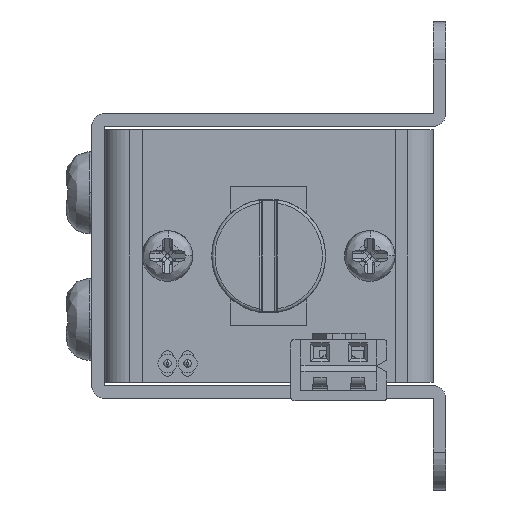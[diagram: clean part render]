
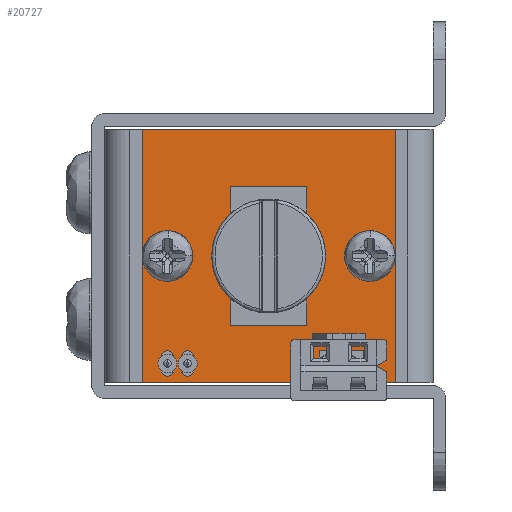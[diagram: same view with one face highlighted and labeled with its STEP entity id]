
A CAD part, left-side view. The second image highlights one B-rep face of the part: STEP entity #20727.
In plain terms, the highlighted planar face has unit normal (-1, 0, 0).
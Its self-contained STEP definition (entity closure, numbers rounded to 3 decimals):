
#20134=CARTESIAN_POINT('',(-27.5,8.,0.));
#20135=DIRECTION('',(1.,0.,0.));
#20136=DIRECTION('',(0.,0.,1.));
#20137=AXIS2_PLACEMENT_3D('',#20134,#20135,#20136);
#20139=CARTESIAN_POINT('',(-27.5,8.,0.));
#20140=DIRECTION('',(1.,0.,0.));
#20141=DIRECTION('',(0.,0.,-1.));
#20142=AXIS2_PLACEMENT_3D('',#20139,#20140,#20141);
#20144=CARTESIAN_POINT('',(-27.5,-8.,0.));
#20145=DIRECTION('',(1.,0.,0.));
#20146=DIRECTION('',(0.,0.,1.));
#20147=AXIS2_PLACEMENT_3D('',#20144,#20145,#20146);
#20149=CARTESIAN_POINT('',(-27.5,-8.,0.));
#20150=DIRECTION('',(1.,0.,0.));
#20151=DIRECTION('',(0.,0.,-1.));
#20152=AXIS2_PLACEMENT_3D('',#20149,#20150,#20151);
#20154=DIRECTION('',(0.,-1.,0.));
#20155=VECTOR('',#20154,14.);
#20156=CARTESIAN_POINT('',(-27.5,10.,-10.));
#20157=LINE('',#20156,#20155);
#20158=DIRECTION('',(0.,0.,-1.));
#20159=VECTOR('',#20158,20.);
#20160=CARTESIAN_POINT('',(-27.5,10.,10.));
#20161=LINE('',#20160,#20159);
#20162=DIRECTION('',(0.,1.,0.));
#20163=VECTOR('',#20162,20.);
#20164=CARTESIAN_POINT('',(-27.5,-10.,10.));
#20165=LINE('',#20164,#20163);
#20166=DIRECTION('',(0.,0.,1.));
#20167=VECTOR('',#20166,20.);
#20168=CARTESIAN_POINT('',(-27.5,-10.,-10.));
#20169=LINE('',#20168,#20167);
#20170=DIRECTION('',(0.,1.,0.));
#20171=VECTOR('',#20170,2.);
#20172=CARTESIAN_POINT('',(-27.5,-10.,-10.));
#20173=LINE('',#20172,#20171);
#20174=DIRECTION('',(0.,0.,1.));
#20175=VECTOR('',#20174,2.5);
#20176=CARTESIAN_POINT('',(-27.5,-8.,-10.));
#20177=LINE('',#20176,#20175);
#20178=DIRECTION('',(0.,1.,0.));
#20179=VECTOR('',#20178,4.);
#20180=CARTESIAN_POINT('',(-27.5,-8.,-7.5));
#20181=LINE('',#20180,#20179);
#20182=DIRECTION('',(0.,0.,-1.));
#20183=VECTOR('',#20182,2.5);
#20184=CARTESIAN_POINT('',(-27.5,-4.,-7.5));
#20185=LINE('',#20184,#20183);
#20186=DIRECTION('',(0.,-1.,0.));
#20187=VECTOR('',#20186,6.);
#20188=CARTESIAN_POINT('',(-27.5,3.,-5.5));
#20189=LINE('',#20188,#20187);
#20190=DIRECTION('',(0.,0.,1.));
#20191=VECTOR('',#20190,3.);
#20192=CARTESIAN_POINT('',(-27.5,-3.,-5.5));
#20193=LINE('',#20192,#20191);
#20194=DIRECTION('',(0.,1.,0.));
#20195=VECTOR('',#20194,3.);
#20196=CARTESIAN_POINT('',(-27.5,-3.,-2.5));
#20197=LINE('',#20196,#20195);
#20198=CARTESIAN_POINT('',(-27.5,0.,0.));
#20199=DIRECTION('',(-1.,0.,0.));
#20200=DIRECTION('',(0.,0.,-1.));
#20201=AXIS2_PLACEMENT_3D('',#20198,#20199,#20200);
#20203=DIRECTION('',(0.,-1.,0.));
#20204=VECTOR('',#20203,3.);
#20205=CARTESIAN_POINT('',(-27.5,0.,2.5));
#20206=LINE('',#20205,#20204);
#20207=DIRECTION('',(0.,0.,1.));
#20208=VECTOR('',#20207,3.);
#20209=CARTESIAN_POINT('',(-27.5,-3.,2.5));
#20210=LINE('',#20209,#20208);
#20211=DIRECTION('',(0.,1.,0.));
#20212=VECTOR('',#20211,6.);
#20213=CARTESIAN_POINT('',(-27.5,-3.,5.5));
#20214=LINE('',#20213,#20212);
#20215=DIRECTION('',(0.,0.,-1.));
#20216=VECTOR('',#20215,3.);
#20217=CARTESIAN_POINT('',(-27.5,3.,5.5));
#20218=LINE('',#20217,#20216);
#20219=DIRECTION('',(0.,-1.,0.));
#20220=VECTOR('',#20219,3.);
#20221=CARTESIAN_POINT('',(-27.5,3.,2.5));
#20222=LINE('',#20221,#20220);
#20223=CARTESIAN_POINT('',(-27.5,0.,0.));
#20224=DIRECTION('',(-1.,0.,0.));
#20225=DIRECTION('',(0.,0.,1.));
#20226=AXIS2_PLACEMENT_3D('',#20223,#20224,#20225);
#20228=DIRECTION('',(0.,1.,0.));
#20229=VECTOR('',#20228,3.);
#20230=CARTESIAN_POINT('',(-27.5,0.,-2.5));
#20231=LINE('',#20230,#20229);
#20232=DIRECTION('',(0.,0.,-1.));
#20233=VECTOR('',#20232,3.);
#20234=CARTESIAN_POINT('',(-27.5,3.,-2.5));
#20235=LINE('',#20234,#20233);
#20236=CARTESIAN_POINT('',(-27.5,8.,-9.));
#20237=DIRECTION('',(-1.,0.,0.));
#20238=DIRECTION('',(0.,1.,0.));
#20239=AXIS2_PLACEMENT_3D('',#20236,#20237,#20238);
#20241=DIRECTION('',(0.,0.,1.));
#20242=VECTOR('',#20241,1.);
#20243=CARTESIAN_POINT('',(-27.5,7.5,-9.));
#20244=LINE('',#20243,#20242);
#20245=CARTESIAN_POINT('',(-27.5,8.,-8.));
#20246=DIRECTION('',(-1.,0.,0.));
#20247=DIRECTION('',(0.,-1.,0.));
#20248=AXIS2_PLACEMENT_3D('',#20245,#20246,#20247);
#20250=DIRECTION('',(0.,0.,-1.));
#20251=VECTOR('',#20250,1.);
#20252=CARTESIAN_POINT('',(-27.5,8.5,-8.));
#20253=LINE('',#20252,#20251);
#20254=DIRECTION('',(0.,0.,1.));
#20255=VECTOR('',#20254,1.);
#20256=CARTESIAN_POINT('',(-27.5,5.9,-9.));
#20257=LINE('',#20256,#20255);
#20258=CARTESIAN_POINT('',(-27.5,6.4,-8.));
#20259=DIRECTION('',(-1.,0.,0.));
#20260=DIRECTION('',(0.,-1.,0.));
#20261=AXIS2_PLACEMENT_3D('',#20258,#20259,#20260);
#20263=DIRECTION('',(0.,0.,-1.));
#20264=VECTOR('',#20263,1.);
#20265=CARTESIAN_POINT('',(-27.5,6.9,-8.));
#20266=LINE('',#20265,#20264);
#20267=CARTESIAN_POINT('',(-27.5,6.4,-9.));
#20268=DIRECTION('',(-1.,0.,0.));
#20269=DIRECTION('',(0.,1.,0.));
#20270=AXIS2_PLACEMENT_3D('',#20267,#20268,#20269);
#20466=CARTESIAN_POINT('',(-27.5,10.,10.));
#20467=CARTESIAN_POINT('',(-27.5,10.,-10.));
#20468=VERTEX_POINT('',#20466);
#20469=VERTEX_POINT('',#20467);
#20470=CARTESIAN_POINT('',(-27.5,-10.,10.));
#20471=VERTEX_POINT('',#20470);
#20472=CARTESIAN_POINT('',(-27.5,-10.,-10.));
#20473=VERTEX_POINT('',#20472);
#20474=CARTESIAN_POINT('',(-27.5,-4.,-10.));
#20475=VERTEX_POINT('',#20474);
#20486=CARTESIAN_POINT('',(-27.5,-4.,-7.5));
#20487=VERTEX_POINT('',#20486);
#20488=CARTESIAN_POINT('',(-27.5,-8.,-7.5));
#20489=VERTEX_POINT('',#20488);
#20490=CARTESIAN_POINT('',(-27.5,-8.,-10.));
#20491=VERTEX_POINT('',#20490);
#20492=CARTESIAN_POINT('',(-27.5,0.,2.5));
#20493=VERTEX_POINT('',#20492);
#20494=CARTESIAN_POINT('',(-27.5,0.,-2.5));
#20495=VERTEX_POINT('',#20494);
#20500=CARTESIAN_POINT('',(-27.5,8.,1.25));
#20501=CARTESIAN_POINT('',(-27.5,8.,-1.25));
#20502=VERTEX_POINT('',#20500);
#20503=VERTEX_POINT('',#20501);
#20508=CARTESIAN_POINT('',(-27.5,-8.,1.25));
#20509=CARTESIAN_POINT('',(-27.5,-8.,-1.25));
#20510=VERTEX_POINT('',#20508);
#20511=VERTEX_POINT('',#20509);
#20528=CARTESIAN_POINT('',(-27.5,3.,-5.5));
#20529=CARTESIAN_POINT('',(-27.5,-3.,-5.5));
#20530=VERTEX_POINT('',#20528);
#20531=VERTEX_POINT('',#20529);
#20532=CARTESIAN_POINT('',(-27.5,-3.,-2.5));
#20533=VERTEX_POINT('',#20532);
#20534=CARTESIAN_POINT('',(-27.5,3.,-2.5));
#20535=VERTEX_POINT('',#20534);
#20536=CARTESIAN_POINT('',(-27.5,3.,5.5));
#20537=CARTESIAN_POINT('',(-27.5,3.,2.5));
#20538=VERTEX_POINT('',#20536);
#20539=VERTEX_POINT('',#20537);
#20540=CARTESIAN_POINT('',(-27.5,-3.,2.5));
#20541=VERTEX_POINT('',#20540);
#20542=CARTESIAN_POINT('',(-27.5,-3.,5.5));
#20543=VERTEX_POINT('',#20542);
#20560=CARTESIAN_POINT('',(-27.5,8.5,-9.));
#20561=CARTESIAN_POINT('',(-27.5,7.5,-9.));
#20562=VERTEX_POINT('',#20560);
#20563=VERTEX_POINT('',#20561);
#20564=CARTESIAN_POINT('',(-27.5,7.5,-8.));
#20565=VERTEX_POINT('',#20564);
#20566=CARTESIAN_POINT('',(-27.5,8.5,-8.));
#20567=VERTEX_POINT('',#20566);
#20568=CARTESIAN_POINT('',(-27.5,5.9,-9.));
#20569=CARTESIAN_POINT('',(-27.5,5.9,-8.));
#20570=VERTEX_POINT('',#20568);
#20571=VERTEX_POINT('',#20569);
#20572=CARTESIAN_POINT('',(-27.5,6.9,-8.));
#20573=VERTEX_POINT('',#20572);
#20574=CARTESIAN_POINT('',(-27.5,6.9,-9.));
#20575=VERTEX_POINT('',#20574);
#20647=CARTESIAN_POINT('',(-27.5,0.,0.));
#20648=DIRECTION('',(-1.,0.,0.));
#20649=DIRECTION('',(0.,0.,1.));
#20650=AXIS2_PLACEMENT_3D('',#20647,#20648,#20649);
#20651=PLANE('',#20650);
#20653=ORIENTED_EDGE('',*,*,#20652,.F.);
#20655=ORIENTED_EDGE('',*,*,#20654,.F.);
#20657=ORIENTED_EDGE('',*,*,#20656,.F.);
#20659=ORIENTED_EDGE('',*,*,#20658,.F.);
#20661=ORIENTED_EDGE('',*,*,#20660,.T.);
#20663=ORIENTED_EDGE('',*,*,#20662,.T.);
#20665=ORIENTED_EDGE('',*,*,#20664,.T.);
#20667=ORIENTED_EDGE('',*,*,#20666,.T.);
#20668=EDGE_LOOP('',(#20653,#20655,#20657,#20659,#20661,#20663,#20665,#20667));
#20669=FACE_OUTER_BOUND('',#20668,.F.);
#20671=ORIENTED_EDGE('',*,*,#20670,.F.);
#20673=ORIENTED_EDGE('',*,*,#20672,.F.);
#20674=EDGE_LOOP('',(#20671,#20673));
#20675=FACE_BOUND('',#20674,.F.);
#20677=ORIENTED_EDGE('',*,*,#20676,.F.);
#20679=ORIENTED_EDGE('',*,*,#20678,.F.);
#20680=EDGE_LOOP('',(#20677,#20679));
#20681=FACE_BOUND('',#20680,.F.);
#20683=ORIENTED_EDGE('',*,*,#20682,.T.);
#20685=ORIENTED_EDGE('',*,*,#20684,.T.);
#20687=ORIENTED_EDGE('',*,*,#20686,.T.);
#20688=ORIENTED_EDGE('',*,*,#20630,.T.);
#20690=ORIENTED_EDGE('',*,*,#20689,.T.);
#20692=ORIENTED_EDGE('',*,*,#20691,.T.);
#20694=ORIENTED_EDGE('',*,*,#20693,.T.);
#20696=ORIENTED_EDGE('',*,*,#20695,.T.);
#20698=ORIENTED_EDGE('',*,*,#20697,.T.);
#20700=ORIENTED_EDGE('',*,*,#20699,.T.);
#20702=ORIENTED_EDGE('',*,*,#20701,.T.);
#20704=ORIENTED_EDGE('',*,*,#20703,.T.);
#20705=EDGE_LOOP('',(#20683,#20685,#20687,#20688,#20690,#20692,#20694,#20696,
#20698,#20700,#20702,#20704));
#20706=FACE_BOUND('',#20705,.F.);
#20708=ORIENTED_EDGE('',*,*,#20707,.T.);
#20710=ORIENTED_EDGE('',*,*,#20709,.T.);
#20712=ORIENTED_EDGE('',*,*,#20711,.T.);
#20714=ORIENTED_EDGE('',*,*,#20713,.T.);
#20715=EDGE_LOOP('',(#20708,#20710,#20712,#20714));
#20716=FACE_BOUND('',#20715,.F.);
#20718=ORIENTED_EDGE('',*,*,#20717,.T.);
#20720=ORIENTED_EDGE('',*,*,#20719,.T.);
#20722=ORIENTED_EDGE('',*,*,#20721,.T.);
#20724=ORIENTED_EDGE('',*,*,#20723,.T.);
#20725=EDGE_LOOP('',(#20718,#20720,#20722,#20724));
#20726=FACE_BOUND('',#20725,.F.);
#20727=ADVANCED_FACE('',(#20669,#20675,#20681,#20706,#20716,#20726),#20651,.T.);
#20138=CIRCLE('',#20137,1.25);
#20143=CIRCLE('',#20142,1.25);
#20148=CIRCLE('',#20147,1.25);
#20153=CIRCLE('',#20152,1.25);
#20202=CIRCLE('',#20201,2.5);
#20227=CIRCLE('',#20226,2.5);
#20240=CIRCLE('',#20239,0.5);
#20249=CIRCLE('',#20248,0.5);
#20262=CIRCLE('',#20261,0.5);
#20271=CIRCLE('',#20270,0.5);
#20630=EDGE_CURVE('',#20495,#20493,#20202,.T.);
#20652=EDGE_CURVE('',#20469,#20475,#20157,.T.);
#20654=EDGE_CURVE('',#20468,#20469,#20161,.T.);
#20656=EDGE_CURVE('',#20471,#20468,#20165,.T.);
#20658=EDGE_CURVE('',#20473,#20471,#20169,.T.);
#20660=EDGE_CURVE('',#20473,#20491,#20173,.T.);
#20662=EDGE_CURVE('',#20491,#20489,#20177,.T.);
#20664=EDGE_CURVE('',#20489,#20487,#20181,.T.);
#20666=EDGE_CURVE('',#20487,#20475,#20185,.T.);
#20670=EDGE_CURVE('',#20510,#20511,#20148,.T.);
#20672=EDGE_CURVE('',#20511,#20510,#20153,.T.);
#20676=EDGE_CURVE('',#20502,#20503,#20138,.T.);
#20678=EDGE_CURVE('',#20503,#20502,#20143,.T.);
#20682=EDGE_CURVE('',#20530,#20531,#20189,.T.);
#20684=EDGE_CURVE('',#20531,#20533,#20193,.T.);
#20686=EDGE_CURVE('',#20533,#20495,#20197,.T.);
#20689=EDGE_CURVE('',#20493,#20541,#20206,.T.);
#20691=EDGE_CURVE('',#20541,#20543,#20210,.T.);
#20693=EDGE_CURVE('',#20543,#20538,#20214,.T.);
#20695=EDGE_CURVE('',#20538,#20539,#20218,.T.);
#20697=EDGE_CURVE('',#20539,#20493,#20222,.T.);
#20699=EDGE_CURVE('',#20493,#20495,#20227,.T.);
#20701=EDGE_CURVE('',#20495,#20535,#20231,.T.);
#20703=EDGE_CURVE('',#20535,#20530,#20235,.T.);
#20707=EDGE_CURVE('',#20562,#20563,#20240,.T.);
#20709=EDGE_CURVE('',#20563,#20565,#20244,.T.);
#20711=EDGE_CURVE('',#20565,#20567,#20249,.T.);
#20713=EDGE_CURVE('',#20567,#20562,#20253,.T.);
#20717=EDGE_CURVE('',#20570,#20571,#20257,.T.);
#20719=EDGE_CURVE('',#20571,#20573,#20262,.T.);
#20721=EDGE_CURVE('',#20573,#20575,#20266,.T.);
#20723=EDGE_CURVE('',#20575,#20570,#20271,.T.);
